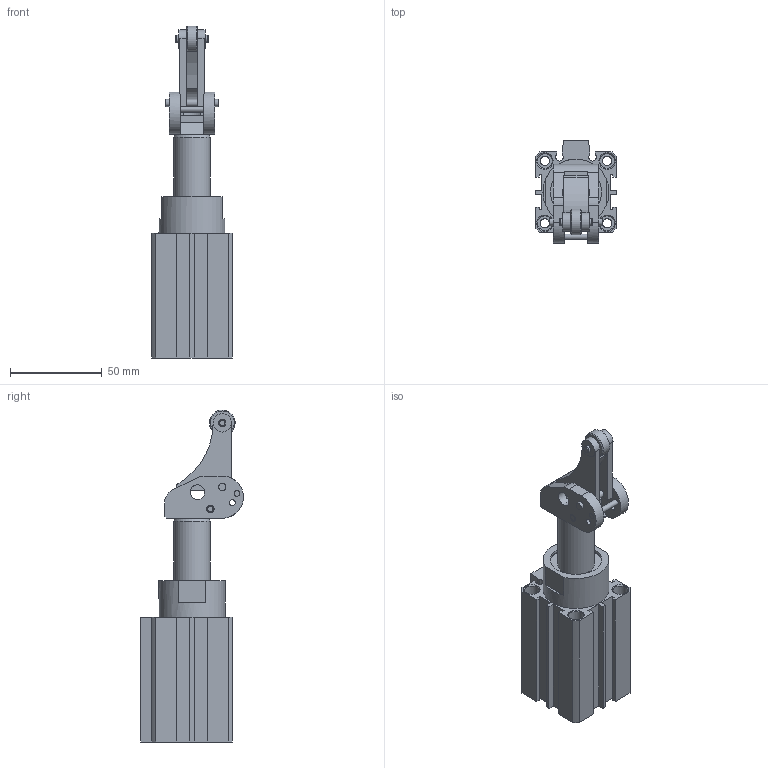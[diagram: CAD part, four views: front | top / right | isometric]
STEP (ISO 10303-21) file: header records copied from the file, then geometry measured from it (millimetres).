
FILE_DESCRIPTION((''),'2;1');
FILE_NAME('I:\3D電子目錄\氣缸\STD\STD\STD32\STD32x20.stp','2007-09-26T08:45:38',('Administrator'),(''),'Autodesk Inventor 11','Autodesk Inventor 11','');
FILE_SCHEMA(('AUTOMOTIVE_DESIGN { 1 0 10303 214 1 1 1 1 }'));
Length unit declared in the file: millimetre
Products named in the file (1): STD32
Bounding box: 44 x 56 x 181 mm (x, y, z)
Volume: 161190.1 mm3; surface area: 42317.4 mm2
Topology: 5 solids, 5 shells, 201 faces, 508 edges, 330 vertices
Faces by surface type: plane 114, cylinder 54, cone 19, bspline 13, torus 1
Full cylindrical faces by diameter (mm): 2.2 x2, 3 x1, 3.1 x4, 4 x6, 4.1 x1, 5.1 x4, 8 x10, 10 x2, 14 x1, 20 x1, 23 x1, 28 x1, 29.4 x1, 34 x2, 36 x2
Entity records: 5997 total; most frequent: CARTESIAN_POINT 1298, DIRECTION 971, ORIENTED_EDGE 866, EDGE_CURVE 433, AXIS2_PLACEMENT_3D 354, VERTEX_POINT 320, EDGE_LOOP 313, VECTOR 263
